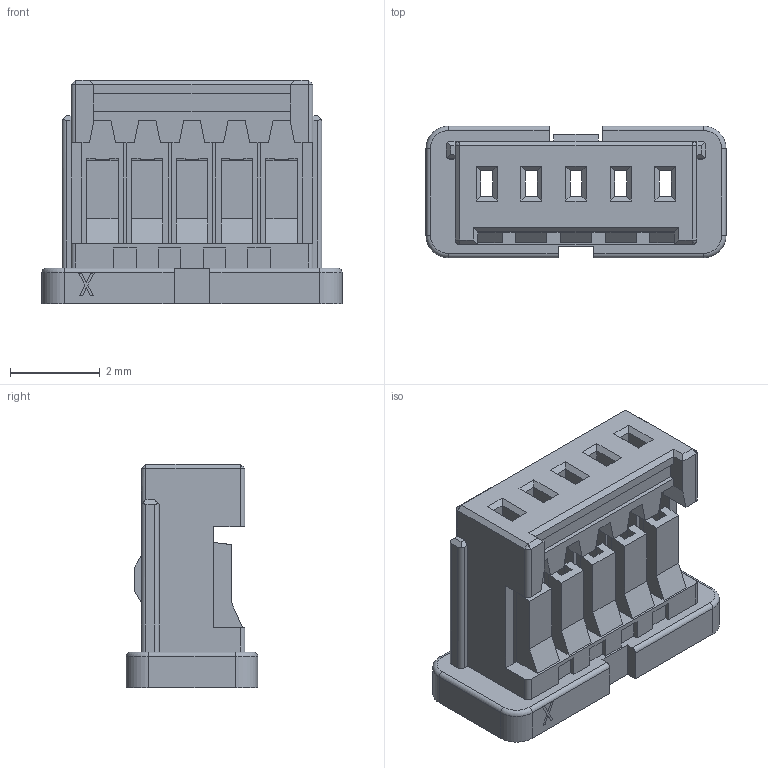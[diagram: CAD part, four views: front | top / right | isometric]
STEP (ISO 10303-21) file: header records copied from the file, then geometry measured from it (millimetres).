
FILE_DESCRIPTION (( 'STEP AP203' ), '1' );
FILE_NAME ('HC-51330-5Y-05.STEP', '2024-05-10T03:03:29', ( '' ), ( '' ), 'SwSTEP 2.0', 'SolidWorks 2022', '' );
FILE_SCHEMA (( 'CONFIG_CONTROL_DESIGN' ));
Length unit declared in the file: millimetre
Products named in the file (1): HC-51330-5Y-05
Bounding box: 6.7 x 2.94 x 5 mm (x, y, z)
Volume: 27.2 mm3; surface area: 240.2 mm2
Topology: 1 solids, 1 shells, 272 faces, 773 edges, 496 vertices
Faces by surface type: plane 244, cylinder 20, torus 4, cone 4
Entity records: 8708 total; most frequent: CARTESIAN_POINT 1568, ORIENTED_EDGE 1538, DIRECTION 1343, EDGE_CURVE 769, LINE 721, VECTOR 721, VERTEX_POINT 496, AXIS2_PLACEMENT_3D 311
